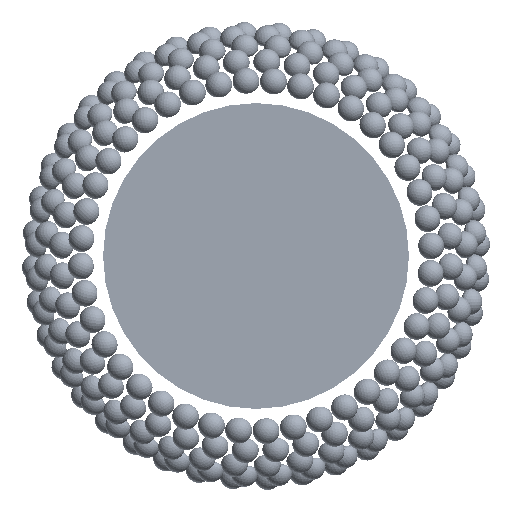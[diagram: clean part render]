
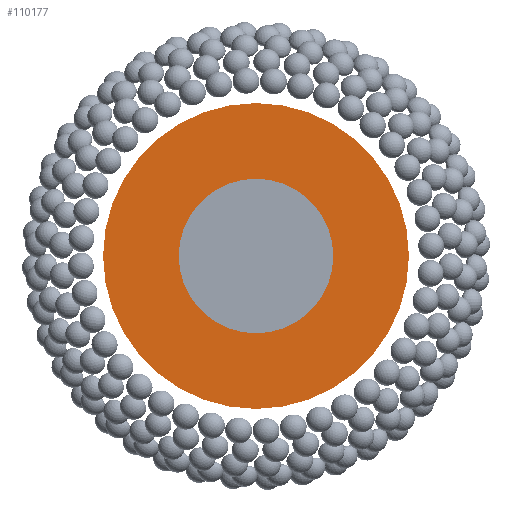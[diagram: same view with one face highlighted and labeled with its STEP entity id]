
A CAD part, front view. The second image highlights one B-rep face of the part: STEP entity #110177.
In plain terms, the highlighted planar face has unit normal (0, -1, 0).
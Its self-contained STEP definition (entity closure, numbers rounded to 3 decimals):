
#761 = CARTESIAN_POINT ( 'NONE',  ( 0., -2., 0. ) ) ;
#1474 = DIRECTION ( 'NONE',  ( 0., 0., 1. ) ) ;
#5241 = PLANE ( 'NONE',  #68554 ) ;
#7952 = EDGE_CURVE ( 'NONE', #78063, #79790, #77886, .T. ) ;
#23294 = ORIENTED_EDGE ( 'NONE', *, *, #34496, .F. ) ;
#26152 = DIRECTION ( 'NONE',  ( 0., 0., 1. ) ) ;
#34496 = EDGE_CURVE ( 'NONE', #79790, #78063, #101037, .T. ) ;
#34591 = EDGE_CURVE ( 'NONE', #116520, #95537, #69997, .T. ) ;
#35688 = AXIS2_PLACEMENT_3D ( 'NONE', #117696, #75155, #129411 ) ;
#36251 = CARTESIAN_POINT ( 'NONE',  ( 0., -2., 227.5 ) ) ;
#38961 = DIRECTION ( 'NONE',  ( 0., 1., 0. ) ) ;
#40305 = EDGE_CURVE ( 'NONE', #95537, #116520, #110852, .T. ) ;
#40916 = AXIS2_PLACEMENT_3D ( 'NONE', #761, #54437, #1474 ) ;
#43307 = AXIS2_PLACEMENT_3D ( 'NONE', #72398, #38961, #94666 ) ;
#46264 = AXIS2_PLACEMENT_3D ( 'NONE', #87606, #86924, #76458 ) ;
#53068 = ORIENTED_EDGE ( 'NONE', *, *, #7952, .F. ) ;
#54437 = DIRECTION ( 'NONE',  ( 0., 1., 0. ) ) ;
#68554 = AXIS2_PLACEMENT_3D ( 'NONE', #90230, #88847, #26152 ) ;
#69997 = CIRCLE ( 'NONE', #43307, 115. ) ;
#72398 = CARTESIAN_POINT ( 'NONE',  ( 0., -2., 0. ) ) ;
#73953 = ORIENTED_EDGE ( 'NONE', *, *, #40305, .T. ) ;
#75155 = DIRECTION ( 'NONE',  ( 0., 1., 0. ) ) ;
#76099 = EDGE_LOOP ( 'NONE', ( #132646, #73953 ) ) ;
#76458 = DIRECTION ( 'NONE',  ( 0., 0., 1. ) ) ;
#77358 = FACE_OUTER_BOUND ( 'NONE', #120746, .T. ) ;
#77886 = CIRCLE ( 'NONE', #35688, 227.5 ) ;
#78063 = VERTEX_POINT ( 'NONE', #36251 ) ;
#79790 = VERTEX_POINT ( 'NONE', #135817 ) ;
#86924 = DIRECTION ( 'NONE',  ( 0., 1., 0. ) ) ;
#87606 = CARTESIAN_POINT ( 'NONE',  ( 0., -2., 0. ) ) ;
#88847 = DIRECTION ( 'NONE',  ( 0., 1., 0. ) ) ;
#90230 = CARTESIAN_POINT ( 'NONE',  ( -115., -2., 0. ) ) ;
#94666 = DIRECTION ( 'NONE',  ( 0., 0., 1. ) ) ;
#95401 = CARTESIAN_POINT ( 'NONE',  ( 0., -2., -115. ) ) ;
#95537 = VERTEX_POINT ( 'NONE', #95401 ) ;
#101037 = CIRCLE ( 'NONE', #40916, 227.5 ) ;
#110177 = ADVANCED_FACE ( 'NONE', ( #77358, #119891 ), #5241, .F. ) ;
#110852 = CIRCLE ( 'NONE', #46264, 115. ) ;
#116520 = VERTEX_POINT ( 'NONE', #125104 ) ;
#117696 = CARTESIAN_POINT ( 'NONE',  ( 0., -2., 0. ) ) ;
#119891 = FACE_BOUND ( 'NONE', #76099, .T. ) ;
#120746 = EDGE_LOOP ( 'NONE', ( #53068, #23294 ) ) ;
#125104 = CARTESIAN_POINT ( 'NONE',  ( 0., -2., 115. ) ) ;
#129411 = DIRECTION ( 'NONE',  ( 0., 0., 1. ) ) ;
#132646 = ORIENTED_EDGE ( 'NONE', *, *, #34591, .T. ) ;
#135817 = CARTESIAN_POINT ( 'NONE',  ( 0., -2., -227.5 ) ) ;
